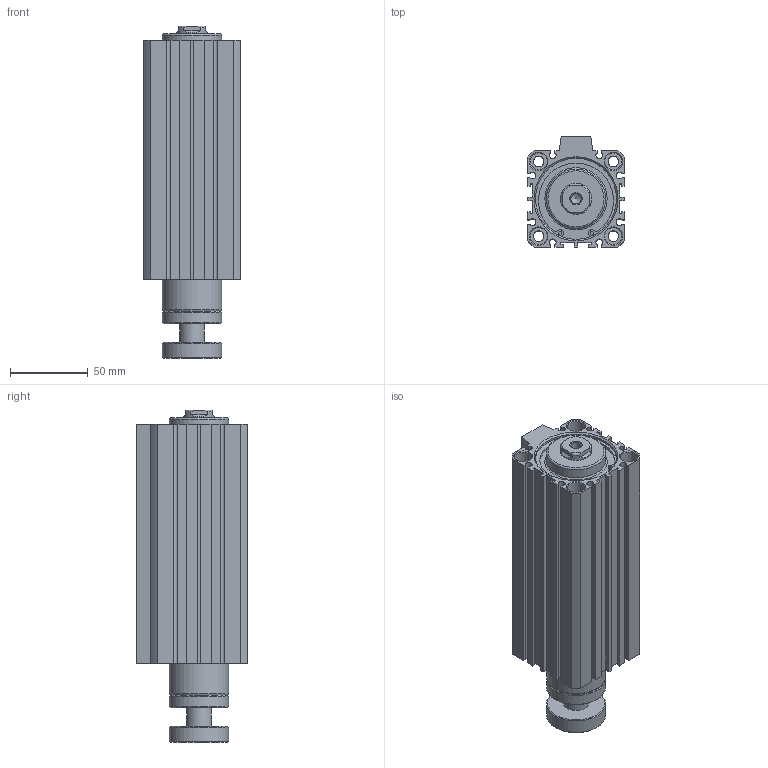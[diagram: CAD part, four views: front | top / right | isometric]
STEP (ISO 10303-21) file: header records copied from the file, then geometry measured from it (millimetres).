
FILE_DESCRIPTION((''),'2;1');
FILE_NAME('I:\3D電子目錄\氣缸\JDAR\JDAR\JDAR50\JDAR50x125.stp','2007-03-14T11:05:02',('662F206'),(''),'Autodesk Inventor 11','Autodesk Inventor 11','');
FILE_SCHEMA(('AUTOMOTIVE_DESIGN { 1 0 10303 214 1 1 1 1 }'));
Length unit declared in the file: millimetre
Products named in the file (3): JDAR50; R 形環 52
Assembly tree (3 placements, depth 2):
  JDAR50
    JDAR50
    R 形環 52  x2
Bounding box: 62 x 71 x 213.3 mm (x, y, z)
Volume: 584414.8 mm3; surface area: 96734.5 mm2
Topology: 3 solids, 3 shells, 193 faces, 472 edges, 309 vertices
Faces by surface type: plane 110, cylinder 54, cone 23, bspline 4, torus 2
Full cylindrical faces by diameter (mm): 2.3 x4, 2.7 x2, 6.8 x4, 11 x8, 16 x1, 20 x1, 38 x4, 52 x4, 55 x2
Entity records: 5195 total; most frequent: CARTESIAN_POINT 989, DIRECTION 870, ORIENTED_EDGE 764, EDGE_CURVE 382, AXIS2_PLACEMENT_3D 313, VERTEX_POINT 282, EDGE_LOOP 270, VECTOR 244
